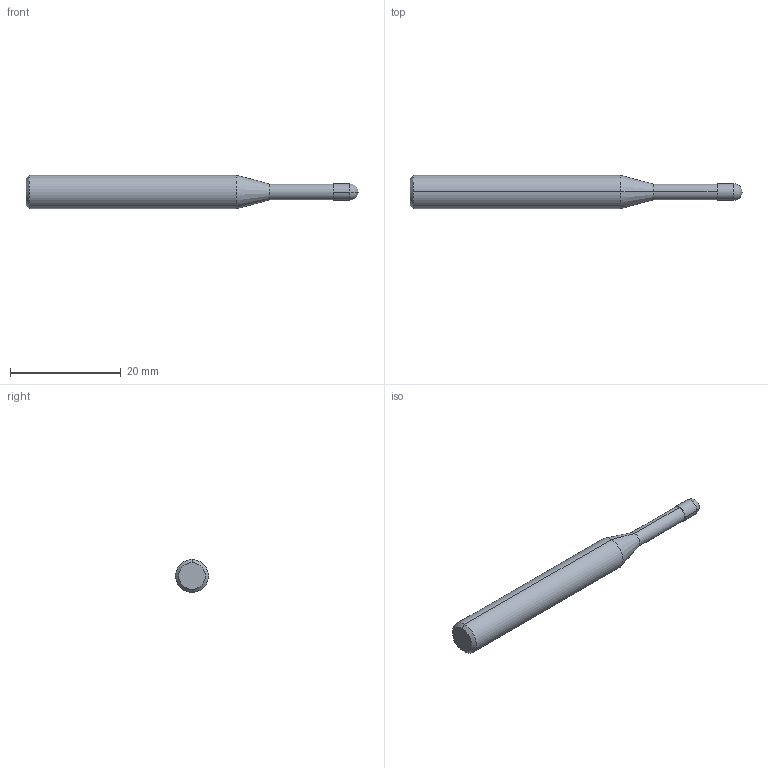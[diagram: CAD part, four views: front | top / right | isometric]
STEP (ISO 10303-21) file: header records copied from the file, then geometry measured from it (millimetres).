
FILE_DESCRIPTION (( 'STEP AP214' ), '1' );
FILE_NAME ('G9B81925.STEP', '2018-06-29T08:50:02', ( 'USER' ), ( '' ), 'SwSTEP 2.0', 'SolidWorks 2014', '' );
FILE_SCHEMA (( 'AUTOMOTIVE_DESIGN' ));
Length unit declared in the file: millimetre
Products named in the file (1): G9B81925
Bounding box: 60 x 6 x 6 mm (x, y, z)
Volume: 1270.6 mm3; surface area: 983.2 mm2
Topology: 2 solids, 2 shells, 15 faces, 30 edges, 17 vertices
Faces by surface type: cylinder 6, cone 4, plane 3, sphere 2
Entity records: 403 total; most frequent: DIRECTION 74, CARTESIAN_POINT 57, ORIENTED_EDGE 52, AXIS2_PLACEMENT_3D 32, EDGE_CURVE 26, CIRCLE 16, EDGE_LOOP 15, ADVANCED_FACE 15
